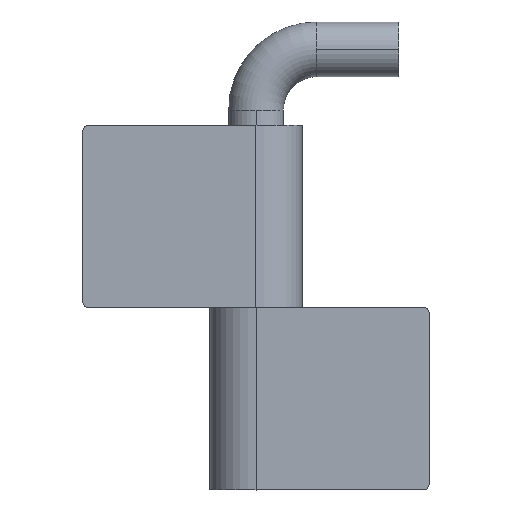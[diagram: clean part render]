
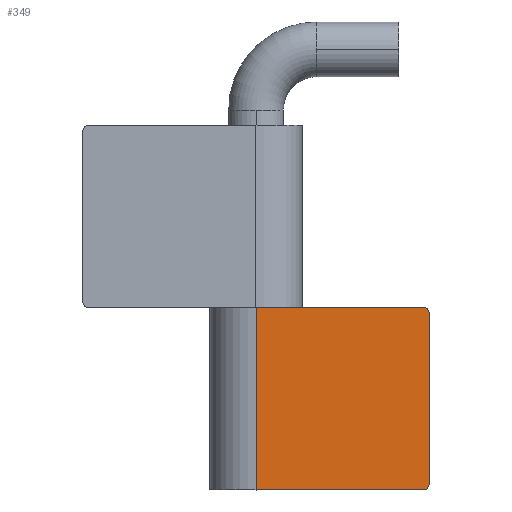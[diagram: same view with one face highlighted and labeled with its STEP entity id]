
A CAD part, top view. The second image highlights one B-rep face of the part: STEP entity #349.
In plain terms, the highlighted planar face has unit normal (0, 0, 1) as drawn and (0, -1, 0) by its records, which use the part's own axes.
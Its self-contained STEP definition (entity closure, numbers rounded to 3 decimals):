
#21 = EDGE_LOOP ( 'NONE', ( #728, #943, #174, #723, #936, #65 ) ) ;
#44 = DIRECTION ( 'NONE',  ( 0., -1., 0. ) ) ;
#65 = ORIENTED_EDGE ( 'NONE', *, *, #160, .T. ) ;
#104 = CARTESIAN_POINT ( 'NONE',  ( 28.5, 0., 15. ) ) ;
#139 = VERTEX_POINT ( 'NONE', #302 ) ;
#150 = VECTOR ( 'NONE', #809, 1000. ) ;
#160 = EDGE_CURVE ( 'NONE', #644, #530, #512, .T. ) ;
#164 = EDGE_CURVE ( 'NONE', #139, #282, #286, .T. ) ;
#174 = ORIENTED_EDGE ( 'NONE', *, *, #266, .F. ) ;
#244 = DIRECTION ( 'NONE',  ( 0., 1., 0. ) ) ;
#251 = LINE ( 'NONE', #823, #590 ) ;
#256 = CARTESIAN_POINT ( 'NONE',  ( 0., 0., 15. ) ) ;
#258 = DIRECTION ( 'NONE',  ( 1., 0., 0. ) ) ;
#266 = EDGE_CURVE ( 'NONE', #139, #518, #447, .T. ) ;
#282 = VERTEX_POINT ( 'NONE', #455 ) ;
#286 = CIRCLE ( 'NONE', #944, 1. ) ;
#293 = DIRECTION ( 'NONE',  ( 0., 0., 1. ) ) ;
#302 = CARTESIAN_POINT ( 'NONE',  ( 28.5, 0., 14. ) ) ;
#310 = CARTESIAN_POINT ( 'NONE',  ( 0., 0., 15. ) ) ;
#345 = VECTOR ( 'NONE', #258, 1000. ) ;
#349 = ADVANCED_FACE ( 'NONE', ( #620 ), #678, .F. ) ;
#355 = DIRECTION ( 'NONE',  ( 0., -1., 0. ) ) ;
#359 = CARTESIAN_POINT ( 'NONE',  ( 27.5, 0., 14. ) ) ;
#387 = DIRECTION ( 'NONE',  ( 0., 0., -1. ) ) ;
#404 = EDGE_CURVE ( 'NONE', #644, #282, #251, .T. ) ;
#407 = CARTESIAN_POINT ( 'NONE',  ( 27.5, 0., -15. ) ) ;
#410 = AXIS2_PLACEMENT_3D ( 'NONE', #456, #44, #630 ) ;
#447 = LINE ( 'NONE', #104, #933 ) ;
#455 = CARTESIAN_POINT ( 'NONE',  ( 27.5, 0., 15. ) ) ;
#456 = CARTESIAN_POINT ( 'NONE',  ( 27.5, 0., -14. ) ) ;
#512 = LINE ( 'NONE', #900, #150 ) ;
#518 = VERTEX_POINT ( 'NONE', #828 ) ;
#530 = VERTEX_POINT ( 'NONE', #925 ) ;
#538 = DIRECTION ( 'NONE',  ( 1., 0., 0. ) ) ;
#590 = VECTOR ( 'NONE', #538, 1000. ) ;
#609 = CARTESIAN_POINT ( 'NONE',  ( 0., 0., -15. ) ) ;
#620 = FACE_OUTER_BOUND ( 'NONE', #21, .T. ) ;
#630 = DIRECTION ( 'NONE',  ( 0., 0., 1. ) ) ;
#631 = EDGE_CURVE ( 'NONE', #871, #518, #652, .T. ) ;
#644 = VERTEX_POINT ( 'NONE', #310 ) ;
#652 = CIRCLE ( 'NONE', #410, 1. ) ;
#678 = PLANE ( 'NONE',  #810 ) ;
#697 = DIRECTION ( 'NONE',  ( 0., 0., 1. ) ) ;
#723 = ORIENTED_EDGE ( 'NONE', *, *, #164, .T. ) ;
#728 = ORIENTED_EDGE ( 'NONE', *, *, #891, .T. ) ;
#809 = DIRECTION ( 'NONE',  ( 0., 0., -1. ) ) ;
#810 = AXIS2_PLACEMENT_3D ( 'NONE', #256, #244, #697 ) ;
#823 = CARTESIAN_POINT ( 'NONE',  ( 0., 0., 15. ) ) ;
#828 = CARTESIAN_POINT ( 'NONE',  ( 28.5, 0., -14. ) ) ;
#839 = LINE ( 'NONE', #609, #345 ) ;
#871 = VERTEX_POINT ( 'NONE', #407 ) ;
#891 = EDGE_CURVE ( 'NONE', #530, #871, #839, .T. ) ;
#900 = CARTESIAN_POINT ( 'NONE',  ( 0., 0., 15. ) ) ;
#925 = CARTESIAN_POINT ( 'NONE',  ( 0., 0., -15. ) ) ;
#933 = VECTOR ( 'NONE', #387, 1000. ) ;
#936 = ORIENTED_EDGE ( 'NONE', *, *, #404, .F. ) ;
#943 = ORIENTED_EDGE ( 'NONE', *, *, #631, .T. ) ;
#944 = AXIS2_PLACEMENT_3D ( 'NONE', #359, #355, #293 ) ;
